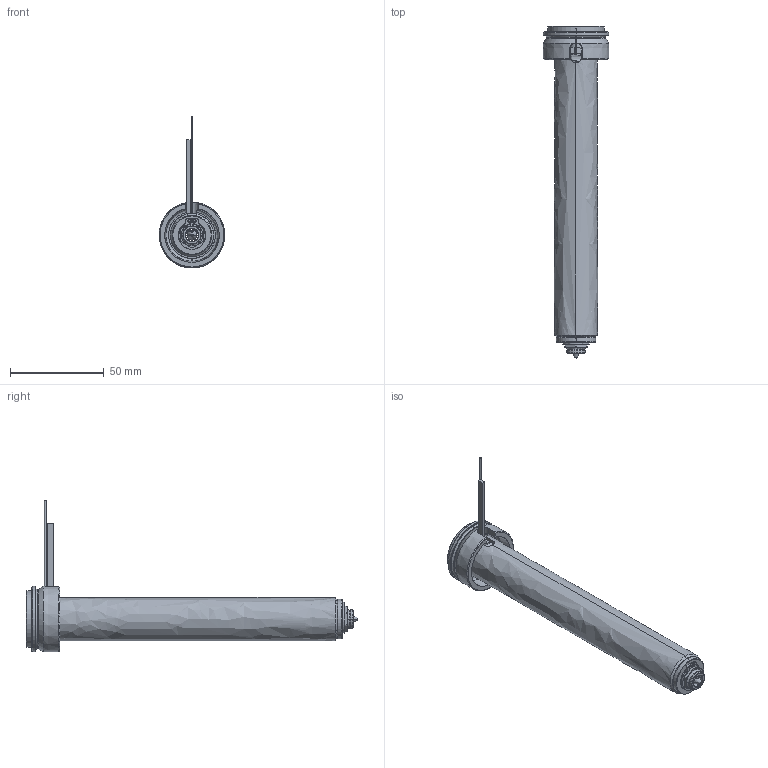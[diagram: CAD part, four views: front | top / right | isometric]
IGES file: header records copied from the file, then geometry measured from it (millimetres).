
Start section: SolidWorks IGES file using analytic representation for surfaces
Global section: file name: C:\Documents and Settings\ws-20\Desktop\TEM\UGEP3054-M-A-1 [Øf-1.10 ØC-7.0].IGS; native system: SolidWorks 2012; preprocessor: SolidWorks 2012; author: ws-20; date: 120402.143711; units: millimetre
Bounding box: 35 x 176.8 x 80.9 mm (x, y, z)
Surface area: 25689.4 mm2 (no closed solid volume)
Topology: 0 solids, 0 shells, 125 faces, 1763 edges, 1763 vertices
Faces by surface type: revolution 77, bspline 48
